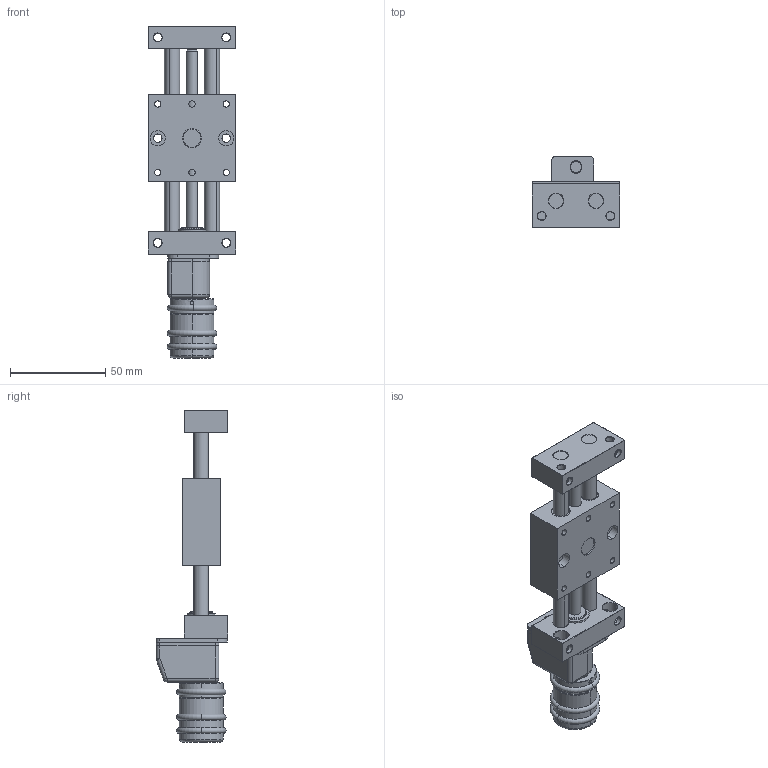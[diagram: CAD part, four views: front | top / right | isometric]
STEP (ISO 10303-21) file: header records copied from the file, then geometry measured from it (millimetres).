
FILE_DESCRIPTION (( 'STEP AP203' ), '1' );
FILE_NAME ('PT4808-PA-Positioniertisch.STEP', '2016-01-15T17:18:56', ( '' ), ( '' ), 'SwSTEP 2.0', 'SolidWorks 2014', '' );
FILE_SCHEMA (( 'CONFIG_CONTROL_DESIGN' ));
Length unit declared in the file: millimetre
Products named in the file (4): PT4808-000-01-Festteil-PA(E)_n_Standard; PA0812-PTHT-000-Positionsanzeiger-komplett_n_Standard; PT4808-PA-Positioniertisch; PT08-000-02-Schlitten-komplett_n_Standard
Assembly tree (3 placements, depth 2):
  PT4808-PA-Positioniertisch
    PT4808-000-01-Festteil-PA(E)_n_Standard
    PT08-000-02-Schlitten-komplett_n_Standard
    PA0812-PTHT-000-Positionsanzeiger-komplett_n_Standard
Bounding box: 46 x 37.7 x 174.53 mm (x, y, z)
Volume: 92252.4 mm3; surface area: 41119.1 mm2
Topology: 5 solids, 5 shells, 529 faces, 1278 edges, 799 vertices
Faces by surface type: cylinder 203, plane 184, cone 114, torus 15, sphere 7, bspline 6
Entity records: 17385 total; most frequent: CARTESIAN_POINT 4160, DIRECTION 2849, ORIENTED_EDGE 2538, EDGE_CURVE 1269, AXIS2_PLACEMENT_3D 1118, VERTEX_POINT 799, EDGE_LOOP 652, VECTOR 613
